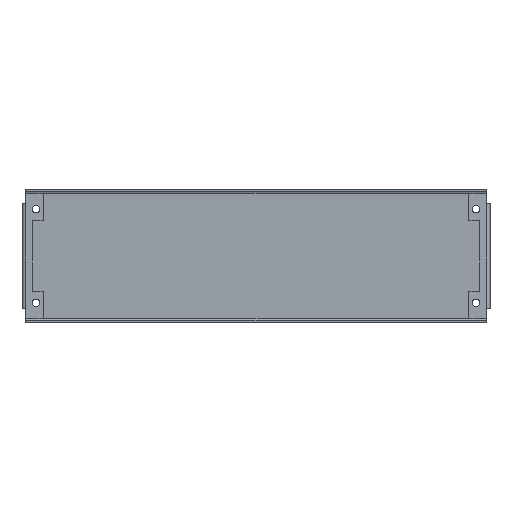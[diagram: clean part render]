
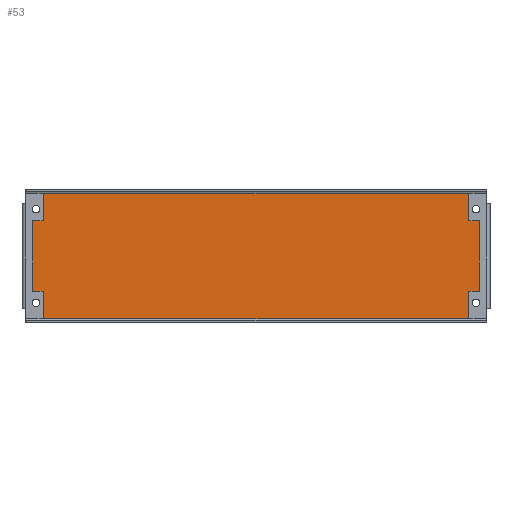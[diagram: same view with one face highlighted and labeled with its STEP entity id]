
A CAD part, top view. The second image highlights one B-rep face of the part: STEP entity #53.
In plain terms, the highlighted planar face has unit normal (0, 0, 1).
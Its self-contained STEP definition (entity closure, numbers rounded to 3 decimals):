
#53=ADVANCED_FACE('',(#157,#159,#161,#163,#165),#167,.T.);
#157=FACE_BOUND('',#158,.T.);
#158=EDGE_LOOP('',(#993,#994,#995,#996,#997,#998,#999,#1000));
#159=FACE_BOUND('',#160,.T.);
#160=EDGE_LOOP('',(#1001));
#161=FACE_BOUND('',#162,.T.);
#162=EDGE_LOOP('',(#1002));
#163=FACE_BOUND('',#164,.T.);
#164=EDGE_LOOP('',(#1003));
#165=FACE_BOUND('',#166,.T.);
#166=EDGE_LOOP('',(#1004));
#167=PLANE('',#168);
#168=AXIS2_PLACEMENT_3D('',#169,#170,#171);
#169=CARTESIAN_POINT('',(0.,0.,2.));
#170=DIRECTION('',(0.,0.,1.));
#171=DIRECTION('',(1.,0.,0.));
#993=ORIENTED_EDGE('',*,*,#1473,.T.);
#994=ORIENTED_EDGE('',*,*,#1474,.T.);
#995=ORIENTED_EDGE('',*,*,#1475,.T.);
#996=ORIENTED_EDGE('',*,*,#1476,.T.);
#997=ORIENTED_EDGE('',*,*,#1477,.T.);
#998=ORIENTED_EDGE('',*,*,#1478,.T.);
#999=ORIENTED_EDGE('',*,*,#1479,.T.);
#1000=ORIENTED_EDGE('',*,*,#1480,.T.);
#1001=ORIENTED_EDGE('',*,*,#1481,.T.);
#1002=ORIENTED_EDGE('',*,*,#1482,.T.);
#1003=ORIENTED_EDGE('',*,*,#1483,.T.);
#1004=ORIENTED_EDGE('',*,*,#1484,.T.);
#1473=EDGE_CURVE('',#1713,#1714,#1715,.F.);
#1474=EDGE_CURVE('',#1714,#1716,#1717,.T.);
#1475=EDGE_CURVE('',#1716,#1718,#1719,.F.);
#1476=EDGE_CURVE('',#1718,#1720,#1721,.T.);
#1477=EDGE_CURVE('',#1720,#1722,#1723,.F.);
#1478=EDGE_CURVE('',#1722,#1724,#1725,.T.);
#1479=EDGE_CURVE('',#1724,#1726,#1727,.F.);
#1480=EDGE_CURVE('',#1726,#1713,#1728,.T.);
#1481=EDGE_CURVE('',#1729,#1729,#1730,.T.);
#1482=EDGE_CURVE('',#1731,#1731,#1732,.T.);
#1483=EDGE_CURVE('',#1733,#1733,#1734,.T.);
#1484=EDGE_CURVE('',#1735,#1735,#1736,.T.);
#1713=VERTEX_POINT('',#2109);
#1714=VERTEX_POINT('',#2110);
#1715=LINE('',#2111,#2112);
#1716=VERTEX_POINT('',#2114);
#1717=LINE('',#2115,#2116);
#1718=VERTEX_POINT('',#2118);
#1719=LINE('',#2119,#2120);
#1720=VERTEX_POINT('',#2122);
#1721=LINE('',#2123,#2124);
#1722=VERTEX_POINT('',#2126);
#1723=LINE('',#2127,#2128);
#1724=VERTEX_POINT('',#2130);
#1725=LINE('',#2131,#2132);
#1726=VERTEX_POINT('',#2134);
#1727=LINE('',#2135,#2136);
#1728=LINE('',#2138,#2139);
#1729=VERTEX_POINT('',#2141);
#1730=CIRCLE('',#2142,8.5);
#1731=VERTEX_POINT('',#2146);
#1732=CIRCLE('',#2147,8.5);
#1733=VERTEX_POINT('',#2151);
#1734=CIRCLE('',#2152,8.5);
#1735=VERTEX_POINT('',#2156);
#1736=CIRCLE('',#2157,8.5);
#2109=CARTESIAN_POINT('',(4.,15.,2.));
#2110=CARTESIAN_POINT('',(4.,4.,2.));
#2111=CARTESIAN_POINT('',(4.,4.,2.));
#2112=VECTOR('',#2113,1.);
#2113=DIRECTION('',(0.,1.,0.));
#2114=CARTESIAN_POINT('',(496.,4.,2.));
#2115=CARTESIAN_POINT('',(4.,4.,2.));
#2116=VECTOR('',#2117,1.);
#2117=DIRECTION('',(1.,0.,0.));
#2118=CARTESIAN_POINT('',(496.,15.,2.));
#2119=CARTESIAN_POINT('',(496.,15.,2.));
#2120=VECTOR('',#2121,1.);
#2121=DIRECTION('',(0.,-1.,0.));
#2122=CARTESIAN_POINT('',(496.,127.,2.));
#2123=CARTESIAN_POINT('',(496.,15.,2.));
#2124=VECTOR('',#2125,1.);
#2125=DIRECTION('',(0.,1.,0.));
#2126=CARTESIAN_POINT('',(496.,138.,2.));
#2127=CARTESIAN_POINT('',(496.,138.,2.));
#2128=VECTOR('',#2129,1.);
#2129=DIRECTION('',(0.,-1.,0.));
#2130=CARTESIAN_POINT('',(4.,138.,2.));
#2131=CARTESIAN_POINT('',(496.,138.,2.));
#2132=VECTOR('',#2133,1.);
#2133=DIRECTION('',(-1.,0.,0.));
#2134=CARTESIAN_POINT('',(4.,127.,2.));
#2135=CARTESIAN_POINT('',(4.,127.,2.));
#2136=VECTOR('',#2137,1.);
#2137=DIRECTION('',(0.,1.,0.));
#2138=CARTESIAN_POINT('',(4.,127.,2.));
#2139=VECTOR('',#2140,1.);
#2140=DIRECTION('',(0.,-1.,0.));
#2141=CARTESIAN_POINT('',(23.5,21.,2.));
#2142=AXIS2_PLACEMENT_3D('',#2143,#2144,#2145);
#2143=CARTESIAN_POINT('',(15.,21.,2.));
#2144=DIRECTION('',(0.,0.,-1.));
#2145=DIRECTION('',(1.,0.,0.));
#2146=CARTESIAN_POINT('',(493.5,21.,2.));
#2147=AXIS2_PLACEMENT_3D('',#2148,#2149,#2150);
#2148=CARTESIAN_POINT('',(485.,21.,2.));
#2149=DIRECTION('',(0.,0.,-1.));
#2150=DIRECTION('',(1.,0.,0.));
#2151=CARTESIAN_POINT('',(23.5,121.,2.));
#2152=AXIS2_PLACEMENT_3D('',#2153,#2154,#2155);
#2153=CARTESIAN_POINT('',(15.,121.,2.));
#2154=DIRECTION('',(0.,0.,-1.));
#2155=DIRECTION('',(1.,0.,0.));
#2156=CARTESIAN_POINT('',(493.5,121.,2.));
#2157=AXIS2_PLACEMENT_3D('',#2158,#2159,#2160);
#2158=CARTESIAN_POINT('',(485.,121.,2.));
#2159=DIRECTION('',(0.,0.,-1.));
#2160=DIRECTION('',(1.,0.,0.));
